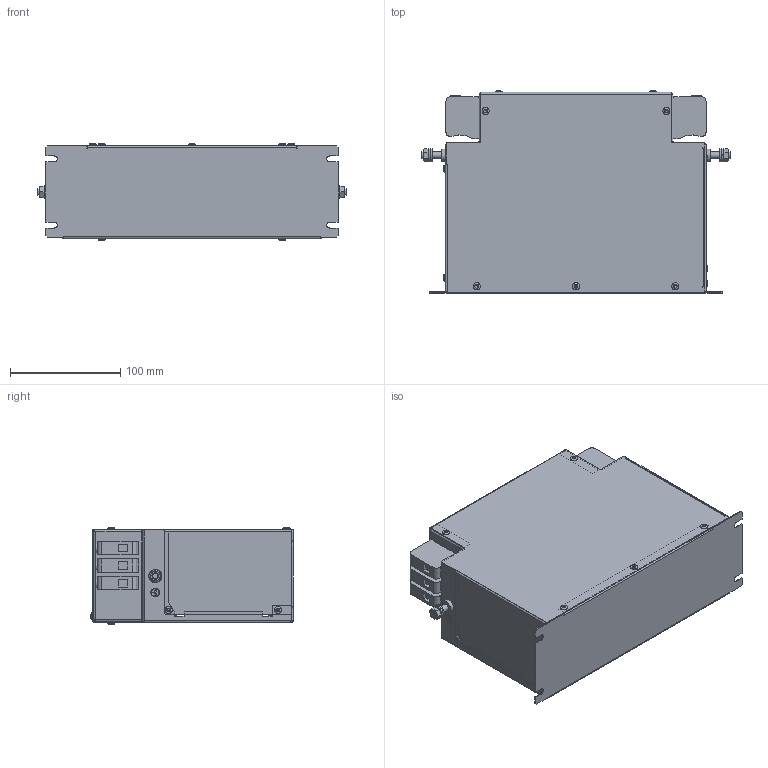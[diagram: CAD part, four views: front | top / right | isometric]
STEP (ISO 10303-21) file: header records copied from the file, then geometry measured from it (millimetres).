
FILE_DESCRIPTION(/* description */ ('raw material description'),/* implementation_level */ '2;1');
FILE_NAME(/* name */ 'C:\Users\Orhan.Eker\Desktop\FN3840-50-53.stp',/* time_stamp */ '2020-02-20T14:16:39+01:00',/* author */ ('orhan.eker'),/* organization */ ('Schaffner EMV AG'),/* preprocessor_version */ 'ST-DEVELOPER v16.5',/* originating_system */ 'Autodesk Inventor 2017',/* authorisation */ '');
FILE_SCHEMA (('AUTOMOTIVE_DESIGN { 1 0 10303 214 3 1 1 }'));
Length unit declared in the file: millimetre
Products named in the file (1): Part3
Bounding box: 280.8 x 183.4 x 87.8 mm (x, y, z)
Volume: 225108.6 mm3; surface area: 332267.7 mm2
Topology: 1 solids, 3 shells, 1026 faces, 2317 edges, 1454 vertices
Faces by surface type: plane 632, cylinder 257, cone 64, bspline 47, torus 26
Full cylindrical faces by diameter (mm): 1 x6, 1.78 x4, 2 x14, 2.4 x4, 3.2 x22, 3.3 x13, 3.4 x14, 3.5 x18, 4 x2, 5.2 x14, 5.459 x2, 5.5 x4, 6 x4, 6.4 x2, 6.5 x14, 7 x6, 7.3 x2, 8 x2, 8.7 x6, 9 x6, 9.9 x2, 11.05 x2, 12 x2
Entity records: 29030 total; most frequent: CARTESIAN_POINT 5904, DIRECTION 4537, ORIENTED_EDGE 4112, EDGE_CURVE 2049, AXIS2_PLACEMENT_3D 1628, EDGE_LOOP 1478, VERTEX_POINT 1429, LINE 1281
